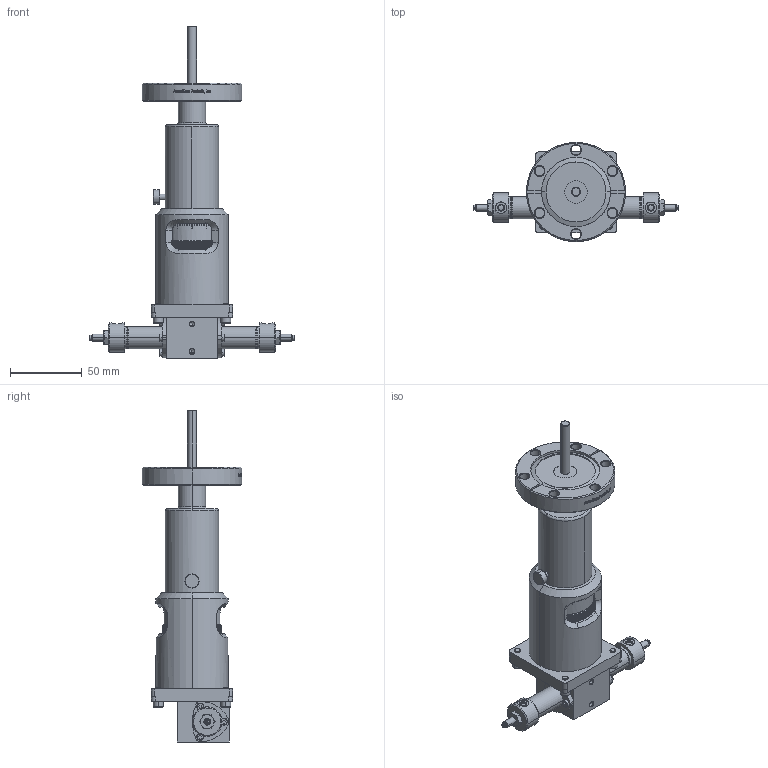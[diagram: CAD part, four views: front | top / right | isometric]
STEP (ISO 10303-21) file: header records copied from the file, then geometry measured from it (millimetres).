
FILE_DESCRIPTION (( 'STEP AP203' ), '1' );
FILE_NAME ('102110.31.stp', '2019-04-17T19:59:25', ( '' ), ( '' ), 'SwSTEP 2.0', 'SolidWorks 2012', '' );
FILE_SCHEMA (( 'CONFIG_CONTROL_DESIGN' ));
Products named in the file (1): 102110.31
Bounding box: 143.87 x 69.34 x 232 mm (x, y, z)
Volume: 324957.1 mm3; surface area: 57177.6 mm2
Topology: 1 solids, 13 shells, 1603 faces, 4360 edges, 2856 vertices
Faces by surface type: plane 726, cylinder 542, cone 182, bspline 153
Entity records: 80257 total; most frequent: CARTESIAN_POINT 40629, ORIENTED_EDGE 8688, DIRECTION 7787, EDGE_CURVE 4344, AXIS2_PLACEMENT_3D 2867, VERTEX_POINT 2856, VECTOR 2053, LINE 2053
